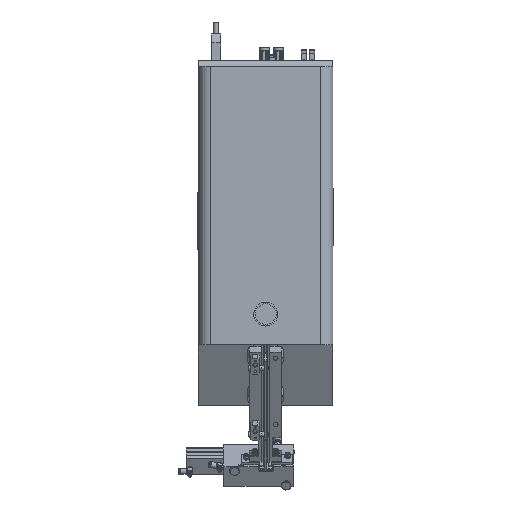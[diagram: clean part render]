
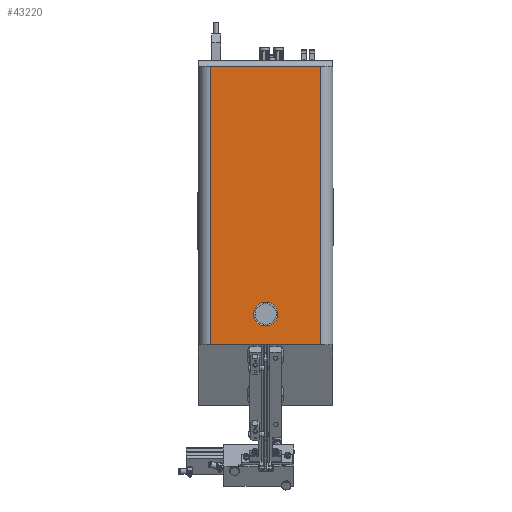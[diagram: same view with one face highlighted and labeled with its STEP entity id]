
A CAD part, top view. The second image highlights one B-rep face of the part: STEP entity #43220.
In plain terms, the highlighted planar face has unit normal (0, 0, 1).
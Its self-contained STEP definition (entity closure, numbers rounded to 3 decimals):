
#965=FACE_BOUND('',#6913,.T.);
#2253=PLANE('',#46895);
#4374=FACE_OUTER_BOUND('',#6912,.T.);
#6912=EDGE_LOOP('',(#37190,#37191,#37192,#37193));
#6913=EDGE_LOOP('',(#37194,#37195));
#9185=CIRCLE('',#46870,10.);
#9186=CIRCLE('',#46871,10.);
#12734=LINE('',#75759,#16258);
#12760=LINE('',#75826,#16284);
#12765=LINE('',#75840,#16289);
#12766=LINE('',#75841,#16290);
#16258=VECTOR('',#57293,10.);
#16284=VECTOR('',#57351,184.);
#16289=VECTOR('',#57368,464.);
#16290=VECTOR('',#57369,10.);
#20091=VERTEX_POINT('',#75745);
#20092=VERTEX_POINT('',#75746);
#20096=VERTEX_POINT('',#75756);
#20097=VERTEX_POINT('',#75758);
#20121=VERTEX_POINT('',#75823);
#20122=VERTEX_POINT('',#75825);
#25893=EDGE_CURVE('',#20091,#20092,#9185,.T.);
#25894=EDGE_CURVE('',#20092,#20091,#9186,.T.);
#25899=EDGE_CURVE('',#20096,#20097,#12734,.T.);
#25932=EDGE_CURVE('',#20121,#20122,#12760,.T.);
#25940=EDGE_CURVE('',#20122,#20096,#12765,.T.);
#25941=EDGE_CURVE('',#20121,#20097,#12766,.T.);
#37190=ORIENTED_EDGE('',*,*,#25940,.F.);
#37191=ORIENTED_EDGE('',*,*,#25932,.F.);
#37192=ORIENTED_EDGE('',*,*,#25941,.T.);
#37193=ORIENTED_EDGE('',*,*,#25899,.F.);
#37194=ORIENTED_EDGE('',*,*,#25893,.T.);
#37195=ORIENTED_EDGE('',*,*,#25894,.T.);
#43220=ADVANCED_FACE('',(#4374,#965),#2253,.F.);
#46870=AXIS2_PLACEMENT_3D('',#75747,#57282,#57283);
#46871=AXIS2_PLACEMENT_3D('',#75748,#57284,#57285);
#46895=AXIS2_PLACEMENT_3D('',#75839,#57366,#57367);
#57282=DIRECTION('center_axis',(0.,0.,-1.));
#57283=DIRECTION('ref_axis',(1.,0.,0.));
#57284=DIRECTION('center_axis',(0.,0.,-1.));
#57285=DIRECTION('ref_axis',(1.,0.,0.));
#57293=DIRECTION('',(-1.,0.,0.));
#57351=DIRECTION('',(1.,0.,0.));
#57366=DIRECTION('center_axis',(0.,0.,-1.));
#57367=DIRECTION('ref_axis',(-1.,0.,0.));
#57368=DIRECTION('',(0.,-1.,0.));
#57369=DIRECTION('',(0.,-1.,0.));
#75745=CARTESIAN_POINT('',(10.5,51.,516.5));
#75746=CARTESIAN_POINT('',(-9.5,51.,516.5));
#75747=CARTESIAN_POINT('Origin',(0.5,51.,516.5));
#75748=CARTESIAN_POINT('Origin',(0.5,51.,516.5));
#75756=CARTESIAN_POINT('',(92.5,0.,516.5));
#75758=CARTESIAN_POINT('',(-91.5,0.,516.5));
#75759=CARTESIAN_POINT('',(92.5,0.,516.5));
#75823=CARTESIAN_POINT('',(-91.5,465.,516.5));
#75825=CARTESIAN_POINT('',(92.5,465.,516.5));
#75826=CARTESIAN_POINT('',(-91.5,465.,516.5));
#75839=CARTESIAN_POINT('Origin',(-91.5,465.,516.5));
#75840=CARTESIAN_POINT('',(92.5,465.,516.5));
#75841=CARTESIAN_POINT('',(-91.5,1.,516.5));
